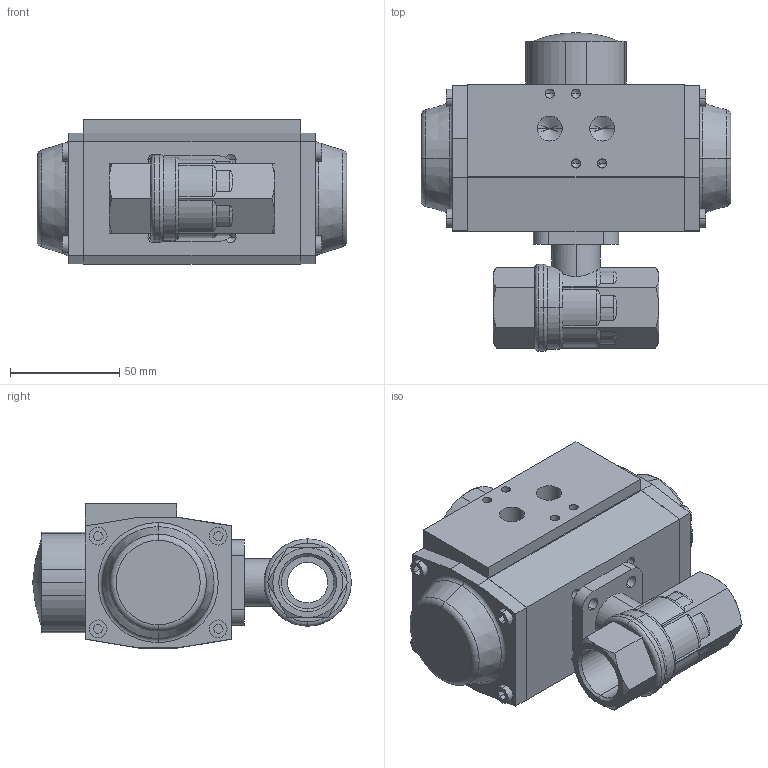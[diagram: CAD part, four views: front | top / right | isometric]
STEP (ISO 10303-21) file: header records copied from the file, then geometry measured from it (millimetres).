
FILE_DESCRIPTION (( 'STEP AP214' ), '1' );
FILE_NAME ('A25-DN20-G3_4+AP1.step', '2011-03-03T09:46:51', ( '' ), ( '' ), 'SwSTEP 2.0', 'SolidWorks 2011', '' );
FILE_SCHEMA (( 'AUTOMOTIVE_DESIGN' ));
Length unit declared in the file: millimetre
Products named in the file (3): AP1_Default<As Machined>; Ballvalve A25-DN20 G3_4; A25-DN20-G3_4+AP1
Assembly tree (2 placements, depth 2):
  A25-DN20-G3_4+AP1
    AP1_Default<As Machined>
    Ballvalve A25-DN20 G3_4
Bounding box: 142 x 145.99 x 66 mm (x, y, z)
Volume: 627897.6 mm3; surface area: 79662.4 mm2
Topology: 5 solids, 5 shells, 336 faces, 828 edges, 511 vertices
Faces by surface type: plane 148, cylinder 101, cone 56, torus 29, sphere 2
Entity records: 11239 total; most frequent: CARTESIAN_POINT 2302, DIRECTION 1662, ORIENTED_EDGE 1584, EDGE_CURVE 792, AXIS2_PLACEMENT_3D 605, VERTEX_POINT 511, LINE 452, VECTOR 452
